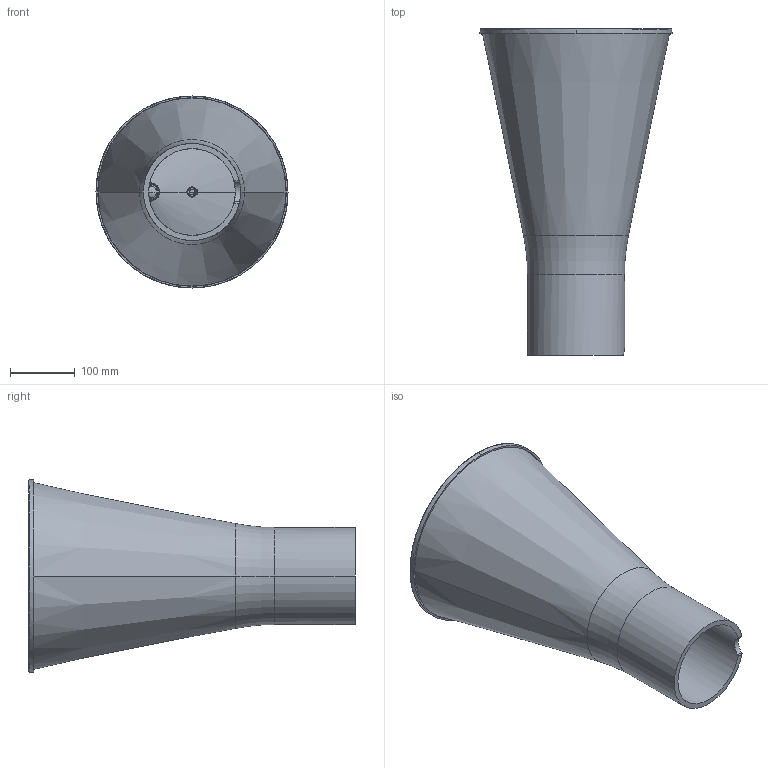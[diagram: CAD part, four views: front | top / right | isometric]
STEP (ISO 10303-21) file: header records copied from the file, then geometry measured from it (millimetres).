
FILE_DESCRIPTION (( 'STEP AP214' ), '1' );
FILE_NAME ('300_STD_T_LD_3D.STEP', '2021-05-24T12:43:18', ( '' ), ( '' ), 'SwSTEP 2.0', 'SolidWorks 2021', '' );
FILE_SCHEMA (( 'AUTOMOTIVE_DESIGN' ));
Length unit declared in the file: millimetre
Products named in the file (1): 300_STD_T_LD_3D
Bounding box: 296.6 x 504.3 x 296.6 mm (x, y, z)
Volume: 2658372.2 mm3; surface area: 775568.8 mm2
Topology: 5 solids, 5 shells, 407 faces, 983 edges, 593 vertices
Faces by surface type: bspline 159, plane 105, cylinder 52, torus 40, cone 29, sphere 22
Entity records: 39699 total; most frequent: CARTESIAN_POINT 27020, ORIENTED_EDGE 1954, DIRECTION 1292, EDGE_CURVE 977, VERTEX_POINT 593, AXIS2_PLACEMENT_3D 535, B_SPLINE_CURVE_WITH_KNOTS 465, EDGE_LOOP 428
